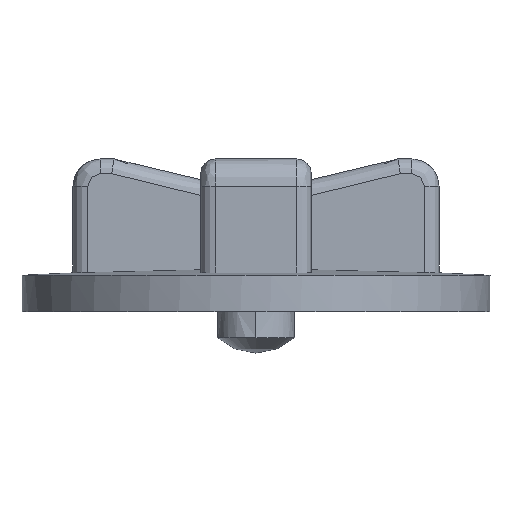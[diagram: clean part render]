
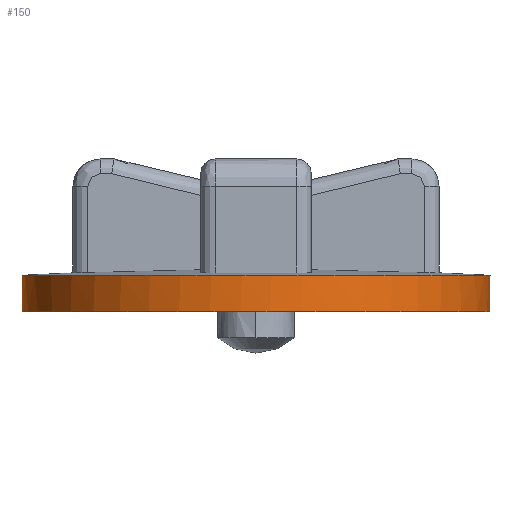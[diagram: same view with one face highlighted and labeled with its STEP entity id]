
A CAD part, front view. The second image highlights one B-rep face of the part: STEP entity #150.
In plain terms, the highlighted cylindrical face has radius 12.8 mm (diameter 25.6 mm), a partial arc.
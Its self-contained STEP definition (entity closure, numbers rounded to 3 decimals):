
#150=ADVANCED_FACE('',(#284),#2039,.T.);
#284=FACE_OUTER_BOUND('',#421,.T.);
#421=EDGE_LOOP('',(#1071,#1072,#1073,#1074,#1075));
#1071=ORIENTED_EDGE('',*,*,#1432,.T.);
#1072=ORIENTED_EDGE('',*,*,#1144,.F.);
#1073=ORIENTED_EDGE('',*,*,#1143,.F.);
#1074=ORIENTED_EDGE('',*,*,#1249,.F.);
#1075=ORIENTED_EDGE('',*,*,#1433,.F.);
#1143=EDGE_CURVE('',#1806,#1807,#1473,.T.);
#1144=EDGE_CURVE('',#1807,#1989,#1675,.T.);
#1249=EDGE_CURVE('',#1966,#1806,#1693,.T.);
#1432=EDGE_CURVE('',#1988,#1989,#1664,.T.);
#1433=EDGE_CURVE('',#1988,#1966,#1773,.T.);
#1473=B_SPLINE_CURVE_WITH_KNOTS('',1,(#6108,#6109),.UNSPECIFIED.,.F.,.F.,
(2,2),(0.,2.),.UNSPECIFIED.);
#1664=B_SPLINE_CURVE_WITH_KNOTS('',1,(#8159,#8160),.UNSPECIFIED.,.F.,.F.,
(2,2),(0.,2.),.UNSPECIFIED.);
#1675=(
BOUNDED_CURVE()
B_SPLINE_CURVE(2,(#6110,#6111,#6112,#6113,#6114),.UNSPECIFIED.,.F.,.F.)
B_SPLINE_CURVE_WITH_KNOTS((3,2,3),(-80.425,-60.319,-40.212),
 .UNSPECIFIED.)
CURVE()
GEOMETRIC_REPRESENTATION_ITEM()
RATIONAL_B_SPLINE_CURVE((1.,0.707,1.,0.707,1.))
REPRESENTATION_ITEM('')
);
#1693=(
BOUNDED_CURVE()
B_SPLINE_CURVE(2,(#6571,#6572,#6573,#6574,#6575),.UNSPECIFIED.,.F.,.F.)
B_SPLINE_CURVE_WITH_KNOTS((3,2,3),(40.212,60.319,80.425),
 .UNSPECIFIED.)
CURVE()
GEOMETRIC_REPRESENTATION_ITEM()
RATIONAL_B_SPLINE_CURVE((1.,0.707,1.,0.707,1.))
REPRESENTATION_ITEM('')
);
#1773=(
BOUNDED_CURVE()
B_SPLINE_CURVE(2,(#8161,#8162,#8163),.UNSPECIFIED.,.F.,.F.)
B_SPLINE_CURVE_WITH_KNOTS((3,3),(40.212,40.212),
 .UNSPECIFIED.)
CURVE()
GEOMETRIC_REPRESENTATION_ITEM()
RATIONAL_B_SPLINE_CURVE((1.,1.,1.))
REPRESENTATION_ITEM('')
);
#1806=VERTEX_POINT('',#5290);
#1807=VERTEX_POINT('',#5291);
#1966=VERTEX_POINT('',#5450);
#1988=VERTEX_POINT('',#5472);
#1989=VERTEX_POINT('',#5473);
#2039=CYLINDRICAL_SURFACE('',#2266,12.8);
#2266=AXIS2_PLACEMENT_3D('',#5080,#2324,$);
#2324=DIRECTION('',(0.,0.,1.));
#5080=CARTESIAN_POINT('',(0.,0.,-1.));
#5290=CARTESIAN_POINT('',(12.8,0.,0.));
#5291=CARTESIAN_POINT('',(12.8,0.,-2.));
#5450=CARTESIAN_POINT('',(-12.8,0.,0.));
#5472=CARTESIAN_POINT('',(-12.8,0.,0.));
#5473=CARTESIAN_POINT('',(-12.8,0.,-2.));
#6108=CARTESIAN_POINT('',(12.8,0.,0.));
#6109=CARTESIAN_POINT('',(12.8,0.,-2.));
#6110=CARTESIAN_POINT('',(12.8,0.,-2.));
#6111=CARTESIAN_POINT('',(12.8,-12.8,-2.));
#6112=CARTESIAN_POINT('',(0.,-12.8,-2.));
#6113=CARTESIAN_POINT('',(-12.8,-12.8,-2.));
#6114=CARTESIAN_POINT('',(-12.8,0.,-2.));
#6571=CARTESIAN_POINT('',(-12.8,0.,0.));
#6572=CARTESIAN_POINT('',(-12.8,-12.8,0.));
#6573=CARTESIAN_POINT('',(0.,-12.8,0.));
#6574=CARTESIAN_POINT('',(12.8,-12.8,0.));
#6575=CARTESIAN_POINT('',(12.8,0.,0.));
#8159=CARTESIAN_POINT('',(-12.8,0.,0.));
#8160=CARTESIAN_POINT('',(-12.8,0.,-2.));
#8161=CARTESIAN_POINT('',(-12.8,0.,0.));
#8162=CARTESIAN_POINT('',(-12.8,0.,0.));
#8163=CARTESIAN_POINT('',(-12.8,0.,0.));
